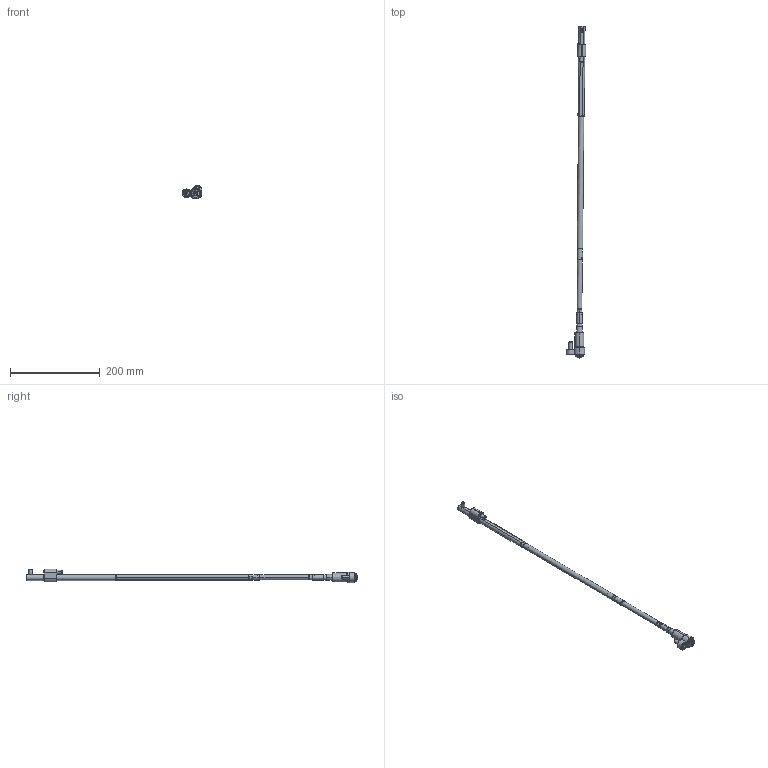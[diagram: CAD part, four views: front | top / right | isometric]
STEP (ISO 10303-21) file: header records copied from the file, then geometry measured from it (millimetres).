
FILE_DESCRIPTION (( 'STEP AP214' ), '1' );
FILE_NAME ('WL120100-EJE 0,5°.STEP', '2021-03-19T15:33:01', ( '' ), ( '' ), 'SwSTEP 2.0', 'SolidWorks 2019', '' );
FILE_SCHEMA (( 'AUTOMOTIVE_DESIGN' ));
Length unit declared in the file: millimetre
Products named in the file (17): 9DR2808-TOR; 3IMAN5X3-150_con sellador; Web-WL12-F01; Web-WL12-A3; 1DIN912820_DIN 912 M8 x 20 --- 20C; 1DIN912645_DIN 912 M6 x 45 --- 45C; WL120100-EJE 0,5°; 8WL12EJEP; WL120100-D; Web-WL12-XX_ON-WL120100-0,5; WL120100-B; Web-WL12-F00.SLDPRT; Web-WL12-A8; Web-WL12-A1; WL120100-E; Web-WL12-A2; WL120100-B1
Assembly tree (16 placements, depth 3):
  WL120100-EJE 0,5°
    Web-WL12-A8
    Web-WL12-XX_ON-WL120100-0,5
    Web-WL12-A3
    Web-WL12-A2
    Web-WL12-A1
    Web-WL12-F00.SLDPRT
      Web-WL12-F01
      1DIN912820_DIN 912 M8 x 20 --- 20C
      1DIN912645_DIN 912 M6 x 45 --- 45C
    WL120100-D
    8WL12EJEP
    WL120100-E
    9DR2808-TOR
    WL120100-B
      WL120100-B1
      3IMAN5X3-150_con sellador
Bounding box: 43.53 x 738.03 x 29.9 mm (x, y, z)
Volume: 113341.6 mm3; surface area: 49842.3 mm2
Topology: 15 solids, 15 shells, 432 faces, 906 edges, 525 vertices
Faces by surface type: plane 139, cylinder 123, cone 120, torus 50
Entity records: 13661 total; most frequent: DIRECTION 2240, CARTESIAN_POINT 2104, ORIENTED_EDGE 1788, AXIS2_PLACEMENT_3D 929, EDGE_CURVE 894, VERTEX_POINT 525, EDGE_LOOP 477, CIRCLE 476
